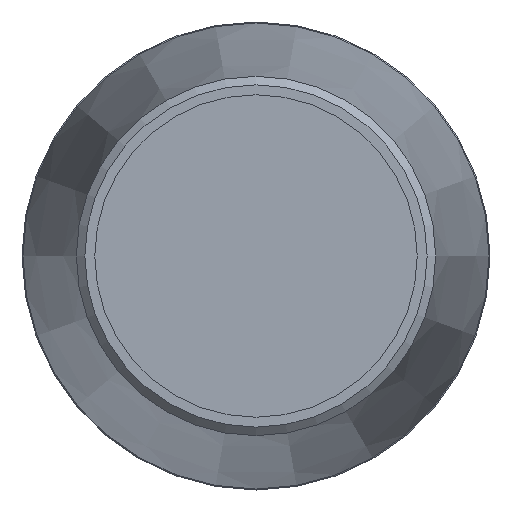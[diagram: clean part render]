
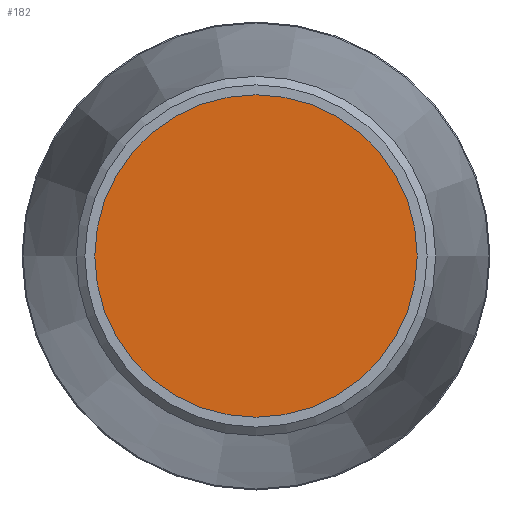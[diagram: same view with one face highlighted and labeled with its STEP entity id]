
A CAD part, left-side view. The second image highlights one B-rep face of the part: STEP entity #182.
In plain terms, the highlighted planar face has unit normal (-1, 0, 0).
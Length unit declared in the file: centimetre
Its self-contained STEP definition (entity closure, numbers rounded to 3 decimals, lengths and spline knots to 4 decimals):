
#20=PLANE('',#211);
#45=FACE_OUTER_BOUND('',#70,.T.);
#70=EDGE_LOOP('',(#140));
#88=CIRCLE('',#210,6.2);
#102=VERTEX_POINT('',#311);
#116=EDGE_CURVE('',#102,#102,#88,.T.);
#140=ORIENTED_EDGE('',*,*,#116,.T.);
#182=ADVANCED_FACE('',(#45),#20,.T.);
#210=AXIS2_PLACEMENT_3D('',#312,#263,#264);
#211=AXIS2_PLACEMENT_3D('',#313,#265,#266);
#263=DIRECTION('center_axis',(-1.,0.,0.));
#264=DIRECTION('ref_axis',(0.,0.,1.));
#265=DIRECTION('center_axis',(-1.,0.,0.));
#266=DIRECTION('ref_axis',(0.,0.,1.));
#311=CARTESIAN_POINT('',(-36.3,-6.2,0.));
#312=CARTESIAN_POINT('Origin',(-36.3,0.,0.));
#313=CARTESIAN_POINT('Origin',(-36.3,0.,0.));
